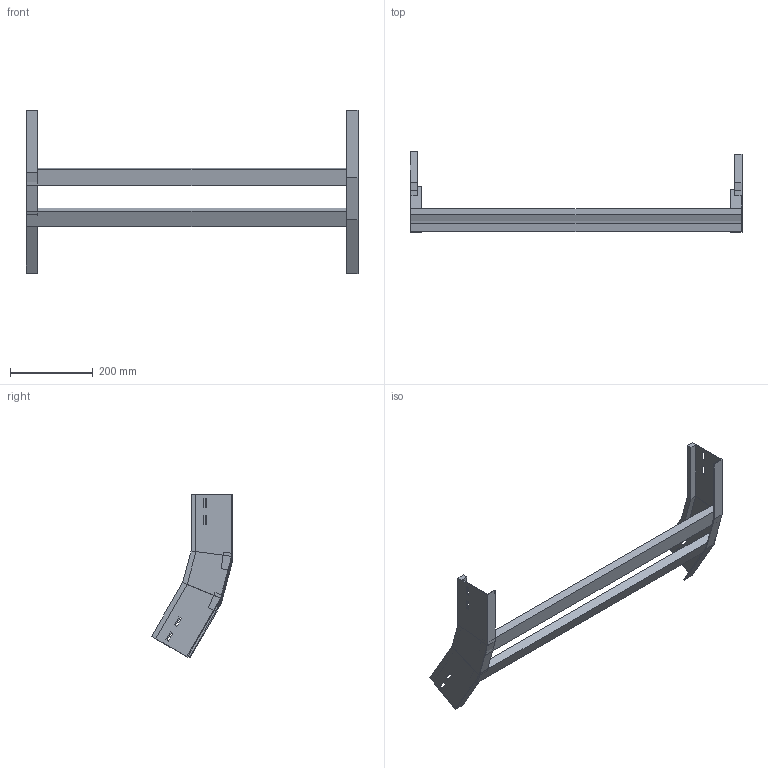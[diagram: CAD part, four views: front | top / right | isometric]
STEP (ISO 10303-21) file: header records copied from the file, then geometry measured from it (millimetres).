
FILE_DESCRIPTION (( 'STEP AP214' ), '1' );
FILE_NAME ('A2X32B3D800XX.step', '2025-03-20T09:57:16', ( '' ), ( '' ), 'SwSTEP 2.0', 'SolidWorks 2023', '' );
FILE_SCHEMA (( 'AUTOMOTIVE_DESIGN' ));
Length unit declared in the file: millimetre
Products named in the file (3): LONGH.SALITA_30°_H100_R300; A2X32B3D800XX; TRAVERSINO_800
Assembly tree (4 placements, depth 2):
  A2X32B3D800XX
    LONGH.SALITA_30°_H100_R300  x2
    TRAVERSINO_800  x2
Bounding box: 800 x 195.25 x 394.23 mm (x, y, z)
Volume: 1626886.2 mm3; surface area: 421179.2 mm2
Topology: 4 solids, 4 shells, 96 faces, 232 edges, 144 vertices
Faces by surface type: plane 96
Entity records: 1472 total; most frequent: CARTESIAN_POINT 243, ORIENTED_EDGE 232, DIRECTION 226, LINE 116, EDGE_CURVE 116, VECTOR 116, VERTEX_POINT 72, EDGE_LOOP 56
